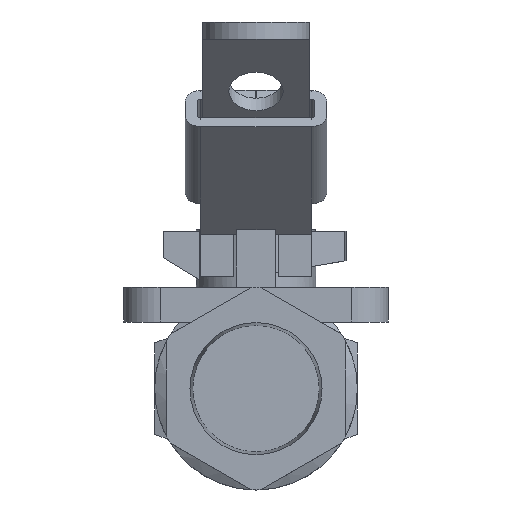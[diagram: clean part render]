
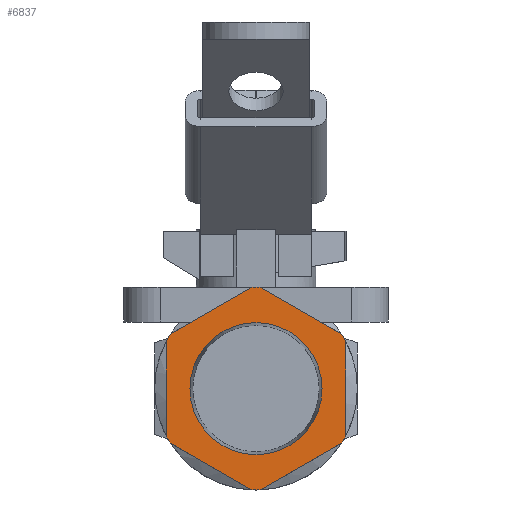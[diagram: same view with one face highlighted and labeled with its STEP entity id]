
A CAD part, left-side view. The second image highlights one B-rep face of the part: STEP entity #6837.
In plain terms, the highlighted planar face has unit normal (-1, 0, 0).
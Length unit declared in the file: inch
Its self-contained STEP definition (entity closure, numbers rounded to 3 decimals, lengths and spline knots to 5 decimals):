
#5863=CARTESIAN_POINT('',(0.0,0.02609,0.59693));
#5864=VERTEX_POINT('',#5863);
#5871=CARTESIAN_POINT('',(0.0,-0.02609,0.59693));
#5872=VERTEX_POINT('',#5871);
#5873=CARTESIAN_POINT('',(0.0,0.0,0.0));
#5874=DIRECTION('',(-1.0,0.0,0.0));
#5875=DIRECTION('',(0.0,1.0,0.0));
#5876=AXIS2_PLACEMENT_3D('',#5873,#5874,#5875);
#5877=CIRCLE('',#5876,0.5975);
#5878=EDGE_CURVE('',#5872,#5864,#5877,.T.);
#6354=CARTESIAN_POINT('',(0.,0.38922,0.0));
#6355=VERTEX_POINT('',#6354);
#6356=CARTESIAN_POINT('',(0.0,0.0,0.0));
#6357=DIRECTION('',(1.0,0.0,0.0));
#6358=DIRECTION('',(0.0,1.0,0.0));
#6359=AXIS2_PLACEMENT_3D('',#6356,#6357,#6358);
#6360=CIRCLE('',#6359,0.38922);
#6361=EDGE_CURVE('',#6355,#6355,#6360,.T.);
#6566=CARTESIAN_POINT('',(0.0,-0.50391,0.32106));
#6567=VERTEX_POINT('',#6566);
#6568=CARTESIAN_POINT('',(0.0,-0.02609,0.59693));
#6569=DIRECTION('',(0.0,-0.866,-0.5));
#6570=VECTOR('',#6569,0.55175);
#6571=LINE('',#6568,#6570);
#6572=EDGE_CURVE('',#5872,#6567,#6571,.T.);
#6592=CARTESIAN_POINT('',(0.0,0.50391,0.32106));
#6593=VERTEX_POINT('',#6592);
#6600=CARTESIAN_POINT('',(0.0,0.50391,0.32106));
#6601=DIRECTION('',(0.0,-0.866,0.5));
#6602=VECTOR('',#6601,0.55175);
#6603=LINE('',#6600,#6602);
#6604=EDGE_CURVE('',#6593,#5864,#6603,.T.);
#6623=CARTESIAN_POINT('',(0.0,-0.53,0.27587));
#6624=VERTEX_POINT('',#6623);
#6625=CARTESIAN_POINT('',(0.0,0.0,0.0));
#6626=DIRECTION('',(-1.0,0.0,0.0));
#6627=DIRECTION('',(0.0,1.0,0.0));
#6628=AXIS2_PLACEMENT_3D('',#6625,#6626,#6627);
#6629=CIRCLE('',#6628,0.5975);
#6630=EDGE_CURVE('',#6624,#6567,#6629,.T.);
#6639=CARTESIAN_POINT('',(0.0,-0.53,-0.27587));
#6640=VERTEX_POINT('',#6639);
#6647=CARTESIAN_POINT('',(0.0,-0.50391,-0.32106));
#6648=VERTEX_POINT('',#6647);
#6649=CARTESIAN_POINT('',(0.0,0.0,0.0));
#6650=DIRECTION('',(-1.0,0.0,0.0));
#6651=DIRECTION('',(0.0,1.0,0.0));
#6652=AXIS2_PLACEMENT_3D('',#6649,#6650,#6651);
#6653=CIRCLE('',#6652,0.5975);
#6654=EDGE_CURVE('',#6648,#6640,#6653,.T.);
#6663=CARTESIAN_POINT('',(0.0,-0.02609,-0.59693));
#6664=VERTEX_POINT('',#6663);
#6671=CARTESIAN_POINT('',(0.0,0.02609,-0.59693));
#6672=VERTEX_POINT('',#6671);
#6673=CARTESIAN_POINT('',(0.0,0.0,0.0));
#6674=DIRECTION('',(-1.0,0.0,0.0));
#6675=DIRECTION('',(0.0,1.0,0.0));
#6676=AXIS2_PLACEMENT_3D('',#6673,#6674,#6675);
#6677=CIRCLE('',#6676,0.5975);
#6678=EDGE_CURVE('',#6672,#6664,#6677,.T.);
#6687=CARTESIAN_POINT('',(0.0,0.50391,-0.32106));
#6688=VERTEX_POINT('',#6687);
#6695=CARTESIAN_POINT('',(0.0,0.53,-0.27587));
#6696=VERTEX_POINT('',#6695);
#6697=CARTESIAN_POINT('',(0.0,0.0,0.0));
#6698=DIRECTION('',(-1.0,0.0,0.0));
#6699=DIRECTION('',(0.0,1.0,0.0));
#6700=AXIS2_PLACEMENT_3D('',#6697,#6698,#6699);
#6701=CIRCLE('',#6700,0.5975);
#6702=EDGE_CURVE('',#6696,#6688,#6701,.T.);
#6711=CARTESIAN_POINT('',(0.0,0.53,0.27587));
#6712=VERTEX_POINT('',#6711);
#6719=CARTESIAN_POINT('',(0.0,0.0,0.0));
#6720=DIRECTION('',(-1.0,0.0,0.0));
#6721=DIRECTION('',(0.0,1.0,0.0));
#6722=AXIS2_PLACEMENT_3D('',#6719,#6720,#6721);
#6723=CIRCLE('',#6722,0.5975);
#6724=EDGE_CURVE('',#6593,#6712,#6723,.T.);
#6766=CARTESIAN_POINT('',(0.,0.53,-0.27587));
#6767=DIRECTION('',(0.0,0.0,1.0));
#6768=VECTOR('',#6767,0.55175);
#6769=LINE('',#6766,#6768);
#6770=EDGE_CURVE('',#6696,#6712,#6769,.T.);
#6795=CARTESIAN_POINT('',(0.,-0.53,0.27587));
#6796=DIRECTION('',(0.0,0.0,-1.0));
#6797=VECTOR('',#6796,0.55175);
#6798=LINE('',#6795,#6797);
#6799=EDGE_CURVE('',#6624,#6640,#6798,.T.);
#6805=CARTESIAN_POINT('',(0.0,0.0,0.0));
#6806=DIRECTION('',(1.0,0.0,0.0));
#6807=DIRECTION('',(0.0,0.0,-1.0));
#6808=AXIS2_PLACEMENT_3D('',#6805,#6806,#6807);
#6809=PLANE('',#6808);
#6810=ORIENTED_EDGE('',*,*,#6630,.T.);
#6811=ORIENTED_EDGE('',*,*,#6572,.F.);
#6812=ORIENTED_EDGE('',*,*,#5878,.T.);
#6813=ORIENTED_EDGE('',*,*,#6604,.F.);
#6814=ORIENTED_EDGE('',*,*,#6724,.T.);
#6815=ORIENTED_EDGE('',*,*,#6770,.F.);
#6816=ORIENTED_EDGE('',*,*,#6702,.T.);
#6817=CARTESIAN_POINT('',(0.0,0.02609,-0.59693));
#6818=DIRECTION('',(0.0,0.866,0.5));
#6819=VECTOR('',#6818,0.55175);
#6820=LINE('',#6817,#6819);
#6821=EDGE_CURVE('',#6672,#6688,#6820,.T.);
#6822=ORIENTED_EDGE('',*,*,#6821,.F.);
#6823=ORIENTED_EDGE('',*,*,#6678,.T.);
#6824=CARTESIAN_POINT('',(0.0,-0.50391,-0.32106));
#6825=DIRECTION('',(0.0,0.866,-0.5));
#6826=VECTOR('',#6825,0.55175);
#6827=LINE('',#6824,#6826);
#6828=EDGE_CURVE('',#6648,#6664,#6827,.T.);
#6829=ORIENTED_EDGE('',*,*,#6828,.F.);
#6830=ORIENTED_EDGE('',*,*,#6654,.T.);
#6831=ORIENTED_EDGE('',*,*,#6799,.F.);
#6832=EDGE_LOOP('',(#6810,#6811,#6812,#6813,#6814,#6815,#6816,#6822,#6823,#6829,#6830,#6831));
#6833=FACE_OUTER_BOUND('',#6832,.T.);
#6834=ORIENTED_EDGE('',*,*,#6361,.T.);
#6835=EDGE_LOOP('',(#6834));
#6836=FACE_BOUND('',#6835,.T.);
#6837=ADVANCED_FACE('',(#6833,#6836),#6809,.F.);
